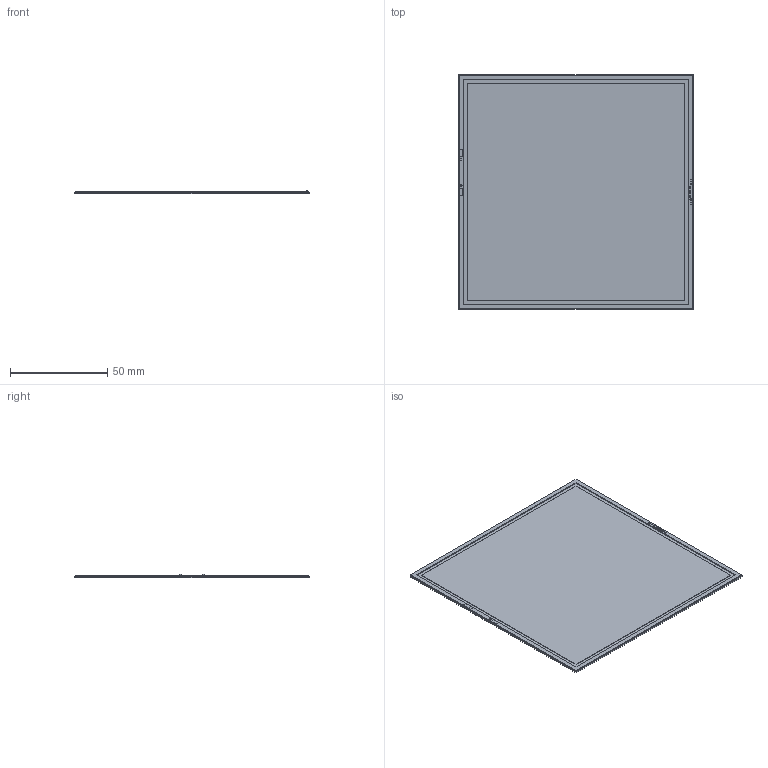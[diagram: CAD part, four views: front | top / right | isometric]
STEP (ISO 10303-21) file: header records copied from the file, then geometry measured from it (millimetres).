
FILE_DESCRIPTION(/* description */ (''),/* implementation_level */ '2;1');
FILE_NAME(/* name */ 'C:\Users\Jörg\Documents\001-Privat\Projekt\Philips\BCOL\Design_Oled\FL300_Brite\FL300_Brite_ww-N_customer_version_9254.000.09400\9254.000.09400-01.stp',/* time_stamp */ '2014-10-01T11:54:42+02:00',/* author */ ('Jörg'),/* organization */ (''),/* preprocessor_version */ 'ST-DEVELOPER v15.2',/* originating_system */ 'Autodesk Inventor 2014',/* authorisation */ '');
FILE_SCHEMA (('AUTOMOTIVE_DESIGN { 1 0 10303 214 3 1 1 }'));
Length unit declared in the file: millimetre
Products named in the file (7): Bauteil_01-01; Bauteil_02-01; Bauteil_03-01; Bauteil_04-01; Bauteil_05-01; Bauteil_06-01; 9254.000.09400-01
Bounding box: 120.5 x 120.5 x 1.96 mm (x, y, z)
Volume: 15913.4 mm3; surface area: 86173.7 mm2
Topology: 8 solids, 8 shells, 123 faces, 288 edges, 192 vertices
Faces by surface type: plane 123
Entity records: 3411 total; most frequent: CARTESIAN_POINT 566, ORIENTED_EDGE 528, DIRECTION 516, LINE 264, VECTOR 264, EDGE_CURVE 264, VERTEX_POINT 176, AXIS2_PLACEMENT_3D 126
